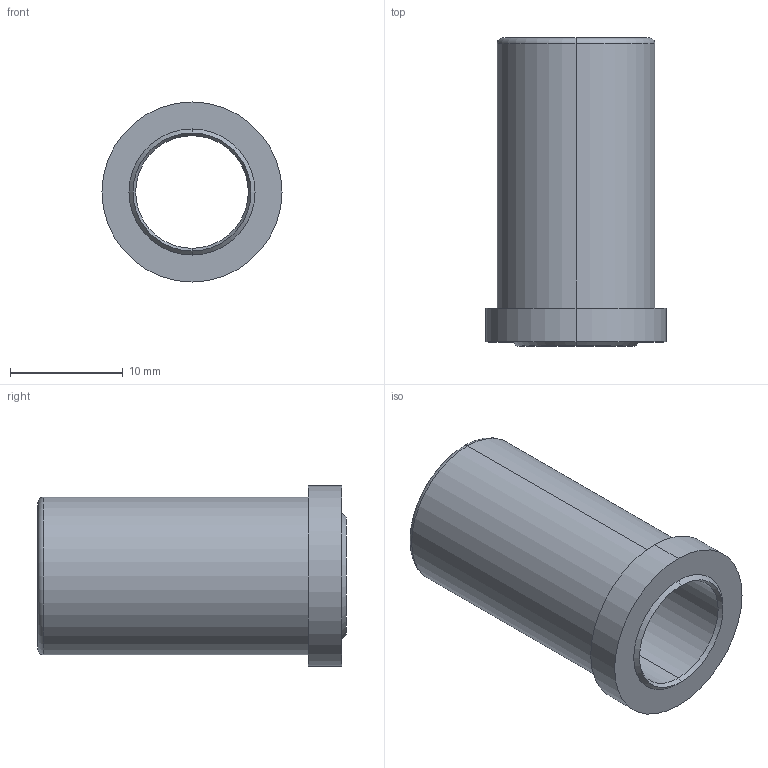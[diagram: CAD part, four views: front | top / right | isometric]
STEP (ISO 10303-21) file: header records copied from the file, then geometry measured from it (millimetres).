
FILE_DESCRIPTION (( 'STEP AP214' ), '1' );
FILE_NAME ('BR11W 9 x 27.STEP', '2019-12-09T17:25:30', ( 'August' ), ( '' ), 'SwSTEP 2.0', 'SolidWorks 2018', '' );
FILE_SCHEMA (( 'AUTOMOTIVE_DESIGN' ));
Length unit declared in the file: millimetre
Products named in the file (1): BR11W 9 x 27
Bounding box: 16 x 27.36 x 16 mm (x, y, z)
Volume: 2174.3 mm3; surface area: 2292.5 mm2
Topology: 1 solids, 1 shells, 17 faces, 34 edges, 20 vertices
Faces by surface type: cone 6, cylinder 6, plane 3, torus 2
Entity records: 484 total; most frequent: DIRECTION 92, CARTESIAN_POINT 72, ORIENTED_EDGE 68, AXIS2_PLACEMENT_3D 40, EDGE_CURVE 34, CIRCLE 22, VERTEX_POINT 20, EDGE_LOOP 20
